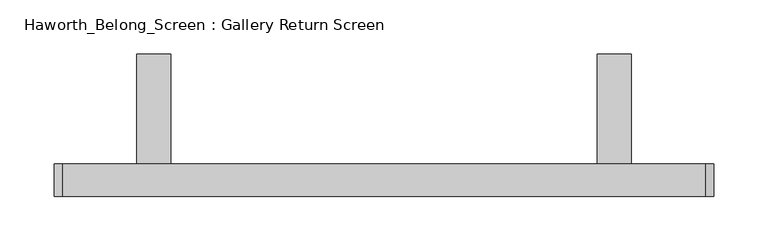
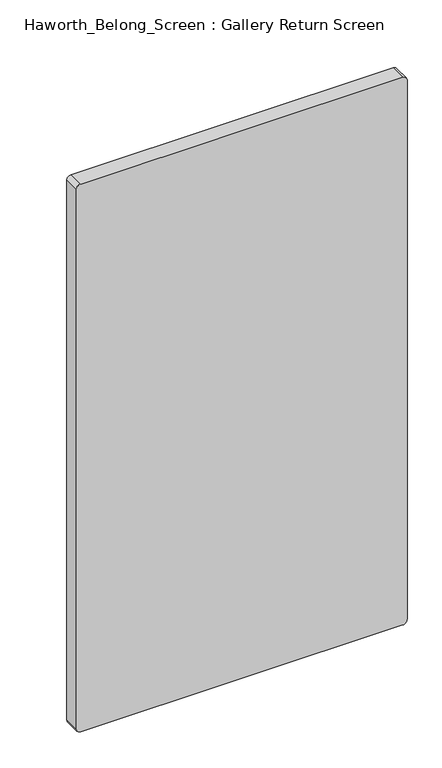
"""IFC4 building model written with IfcOpenShell, lengths in millimetres: furniture geometry, Haworth_Belong_Screen : Gallery Return Screen."""

import ifcopenshell
import ifcopenshell.guid

model = None  # the IFC model being written
_history = None  # IfcOwnerHistory: only IFC2X3 demands one
_inside = {}  # id of a spatial element -> (the spatial element, [elements in it])
_under = {}  # id of a project, library or spatial element -> (it, [spatial elements below it])
_declared = {}  # id of a project -> (the project, [libraries it declares])
_typed = {}  # id of a type object -> (the type object, [elements of that type])
_made_of = {}  # id of a material, layer set ... -> (it, [elements and type objects made of it])


def new_model(schema):
    """Start an empty IFC model of exactly this schema.

    Asked for "IFC4X3", IfcOpenShell would pick the latest addendum, in which some entities
    have other attributes; the version numbers below select the first issue.
    IFC2X3 requires an IfcOwnerHistory on every rooted entity: one is made here for all.
    """
    global model, _history
    if schema == "IFC4X3":
        model = ifcopenshell.file(schema_version=(4, 3, 0, 0))
    else:
        model = ifcopenshell.file(schema=schema)
    _inside.clear()
    _under.clear()
    _declared.clear()
    _typed.clear()
    _made_of.clear()
    _history = None
    if model.schema == "IFC2X3":
        org = make("IfcOrganization", Name="unknown")
        user = make(
            "IfcPersonAndOrganization",
            ThePerson=make("IfcPerson", FamilyName="unknown"),
            TheOrganization=org,
        )
        app = make(
            "IfcApplication",
            ApplicationDeveloper=org,
            Version="unknown",
            ApplicationFullName="unknown",
            ApplicationIdentifier="unknown",
        )
        _history = make(
            "IfcOwnerHistory",
            OwningUser=user,
            OwningApplication=app,
            ChangeAction="ADDED",
            CreationDate=0,
        )
    return model


def make(cls, **values):
    """One entity of the class cls with the attributes given. An attribute that is None is left unset."""
    return model.create_entity(
        cls, **{name: value for name, value in values.items() if value is not None}
    )


def rooted(cls, **values):
    """An entity with a GlobalId (a new one), such as an element, a storey or a relation."""
    return make(cls, GlobalId=ifcopenshell.guid.new(), OwnerHistory=_history, **values)


def si_unit(unit_type, name, prefix=None):
    """IfcSIUnit, for example si_unit("LENGTHUNIT", "METRE", prefix="MILLI")."""
    return make("IfcSIUnit", UnitType=unit_type, Prefix=prefix, Name=name)


def assignment(units):
    """IfcUnitAssignment: the units of a project."""
    return None if units is None else make("IfcUnitAssignment", Units=units)


def point(xyz):
    """IfcCartesianPoint."""
    return None if xyz is None else make("IfcCartesianPoint", Coordinates=xyz)


def direction(xyz):
    """IfcDirection."""
    return None if xyz is None else make("IfcDirection", DirectionRatios=xyz)


def frame(location, z_axis=None, x_axis=None):
    """IfcAxis2Placement3D, a coordinate frame: its origin and axes. An axis left out is left unset."""
    return make(
        "IfcAxis2Placement3D",
        Location=point(location),
        Axis=direction(z_axis),
        RefDirection=direction(x_axis),
    )


def frame_2d(location, x_axis=None):
    """IfcAxis2Placement2D, a coordinate frame in the plane: its origin and x axis."""
    return make(
        "IfcAxis2Placement2D", Location=point(location), RefDirection=direction(x_axis)
    )


def origin():
    """The frame at (0, 0, 0) with its axes left unset."""
    return frame((0.0, 0.0, 0.0))


def place(relative_to, where):
    """IfcLocalPlacement: puts the frame where relative to a parent placement (None: the world)."""
    return make(
        "IfcLocalPlacement", PlacementRelTo=relative_to, RelativePlacement=where
    )


def context(
    kind, dimensions, precision=None, world=None, true_north=None, identifier=None
):
    """IfcGeometricRepresentationContext, for example the 3D "Model" context."""
    return make(
        "IfcGeometricRepresentationContext",
        ContextIdentifier=identifier,
        ContextType=kind,
        CoordinateSpaceDimension=dimensions,
        Precision=precision,
        WorldCoordinateSystem=world,
        TrueNorth=true_north,
    )


def project(units=None, contexts=None):
    """IfcProject with its units and contexts."""
    return rooted(
        "IfcProject",
        Name="project",
        RepresentationContexts=contexts,
        UnitsInContext=assignment(units),
    )


def spatial(cls, under=None, at=None, **own):
    """A site, building, storey or space (cls), placed at a placement, below another one or the project."""
    s = rooted(cls, ObjectPlacement=at, **own)
    if under is not None:
        _under.setdefault(under.id(), (under, []))[1].append(s)
    return s


def polyline(points):
    """IfcPolyline through the points."""
    return make("IfcPolyline", Points=[point(p) for p in points])


def circle_curve(where, radius):
    """IfcCircle in the frame where."""
    return make("IfcCircle", Position=where, Radius=radius)


def trimmed(basis, trim1, trim2, sense, master):
    """IfcTrimmedCurve: the piece of a basis curve between two trims."""
    return make(
        "IfcTrimmedCurve",
        BasisCurve=basis,
        Trim1=trim1,
        Trim2=trim2,
        SenseAgreement=sense,
        MasterRepresentation=master,
    )


def segment(curve, same_sense, transition):
    """IfcCompositeCurveSegment."""
    return make(
        "IfcCompositeCurveSegment",
        Transition=transition,
        SameSense=same_sense,
        ParentCurve=curve,
    )


def composite_curve(segments, self_intersect=None):
    """IfcCompositeCurve: segments joined end to end."""
    return make("IfcCompositeCurve", Segments=segments, SelfIntersect=self_intersect)


def outline(outer, holes=None, kind="AREA"):
    """IfcArbitraryClosedProfileDef: a profile drawn as a closed curve; with holes, ...WithVoids."""
    if holes is None:
        return make("IfcArbitraryClosedProfileDef", ProfileType=kind, OuterCurve=outer)
    return make(
        "IfcArbitraryProfileDefWithVoids",
        ProfileType=kind,
        OuterCurve=outer,
        InnerCurves=holes,
    )


def extrude(swept, where, along, depth):
    """IfcExtrudedAreaSolid: the profile swept, set in the frame where, extruded along a direction by depth."""
    return make(
        "IfcExtrudedAreaSolid",
        SweptArea=swept,
        Position=where,
        ExtrudedDirection=direction(along),
        Depth=depth,
    )


def shape(context_of_items, identifier, shape_type, items):
    """IfcShapeRepresentation: the items that make up one representation, for example the "Body"."""
    return make(
        "IfcShapeRepresentation",
        ContextOfItems=context_of_items,
        RepresentationIdentifier=identifier,
        RepresentationType=shape_type,
        Items=items,
    )


def source(mapping_origin, context_of_items, identifier, shape_type, items):
    """IfcRepresentationMap: a shape defined once, which mapped items show again and again."""
    return make(
        "IfcRepresentationMap",
        MappingOrigin=mapping_origin,
        MappedRepresentation=shape(context_of_items, identifier, shape_type, items),
    )


def transform(
    local_origin,
    x_axis=None,
    y_axis=None,
    z_axis=None,
    scale=None,
    scale2=None,
    scale3=None,
    uniform=True,
):
    """IfcCartesianTransformationOperator3D, or its non-uniform kind. x_axis, y_axis, z_axis: its Axis1, 2, 3."""
    if uniform:
        return make(
            "IfcCartesianTransformationOperator3D",
            Axis1=direction(x_axis),
            Axis2=direction(y_axis),
            LocalOrigin=point(local_origin),
            Scale=scale,
            Axis3=direction(z_axis),
        )
    return make(
        "IfcCartesianTransformationOperator3DnonUniform",
        Axis1=direction(x_axis),
        Axis2=direction(y_axis),
        LocalOrigin=point(local_origin),
        Scale=scale,
        Axis3=direction(z_axis),
        Scale2=scale2,
        Scale3=scale3,
    )


def mapped(mapping_source, mapping_target):
    """IfcMappedItem: shows the shape of a source again, moved by a transform."""
    return make(
        "IfcMappedItem", MappingSource=mapping_source, MappingTarget=mapping_target
    )


def made_of(thing, what):
    """Note that an element or type object is made of a material, layer set ...; save() writes the relation."""
    if what is not None:
        _made_of.setdefault(what.id(), (what, []))[1].append(thing)
    return thing


def element(
    cls,
    number,
    at=None,
    inside=None,
    cuts=None,
    type_object=None,
    material=None,
    context=None,
    identifier="Body",
    shape_type=None,
    held_by="IfcProductDefinitionShape",
    body=None,
    shapes=None,
    **own,
):
    """One element of the class cls, such as IfcWall. Its Tag is "e" and its number.

    at: its placement. inside: the storey or other place that contains it. cuts: it is an
    opening in that element (IfcRelVoidsElement). A single representation is given by context,
    identifier, shape_type and body (its items); several are given by shapes. held_by: the class
    of the entity that holds the representations. save() writes the other relations.
    """
    e = rooted(cls, Tag="e%d" % number, ObjectPlacement=at, **own)
    if body is not None:
        shapes = [shape(context, identifier, shape_type, body)]
    if shapes is not None:
        e.Representation = make(held_by, Representations=shapes)
    if inside is not None:
        _inside.setdefault(inside.id(), (inside, []))[1].append(e)
    if cuts is not None:
        rooted(
            "IfcRelVoidsElement", RelatingBuildingElement=cuts, RelatedOpeningElement=e
        )
    if type_object is not None:
        _typed.setdefault(type_object.id(), (type_object, []))[1].append(e)
    return made_of(e, material)


def aggregate(whole, parts):
    """IfcRelAggregates: a whole, such as a stair, and the parts it consists of."""
    return rooted("IfcRelAggregates", RelatingObject=whole, RelatedObjects=parts)


def save(model, path):
    """Write the relations noted so far, then the file.

    IfcRelAggregates (storeys below a building ...), IfcRelContainedInSpatialStructure (elements
    in a storey), IfcRelDefinesByType, IfcRelAssociatesMaterial and IfcRelDeclares: one each for
    every whole, place, type object, material and project.
    """
    for whole, parts in _under.values():
        aggregate(whole, parts)
    for where, things in _inside.values():
        rooted(
            "IfcRelContainedInSpatialStructure",
            RelatedElements=things,
            RelatingStructure=where,
        )
    for kind, things in _typed.values():
        rooted("IfcRelDefinesByType", RelatedObjects=things, RelatingType=kind)
    for what, things in _made_of.values():
        rooted("IfcRelAssociatesMaterial", RelatedObjects=things, RelatingMaterial=what)
    for by, libraries in _declared.values():
        rooted("IfcRelDeclares", RelatingContext=by, RelatedDefinitions=libraries)
    model.write(path)


def haworth_belong_screen_gallery_return_screen_956dbb98(model_context):
    return source(origin(), model_context, "Body", "SweptSolid", [
        extrude(outline(polyline([(19.05, 731.8375), (120.65, 731.8375), (120.65, 725.4875), (25.4, 725.4875), (25.4, 630.2375), (19.05, 630.2375), (19.05, 731.8375)])), frame((-261.2645436, 0.0, 0.0), z_axis=(1.0, 0.0, 0.0), x_axis=(0.0, 1.0, 0.0)), (0.0, 0.0, 1.0), 31.75),
        extrude(outline(polyline([(19.05, 731.8375), (120.65, 731.8375), (120.65, 725.4875), (25.4, 725.4875), (25.4, 630.2375), (19.05, 630.2375), (19.05, 731.8375)])), frame((164.1854564, 0.0, 0.0), z_axis=(1.0, 0.0, 0.0), x_axis=(0.0, 1.0, 0.0)), (0.0, 0.0, 1.0), 31.75),
        extrude(outline(composite_curve([segment(polyline([(1087.4375, 264.1979564), (1087.4375, -329.5270436)]), True, "CONTINUOUS"), segment(trimmed(circle_curve(frame_2d((1079.5, -329.5270436)), 7.9375), [point((1087.4375, -329.5270436))], [point((1079.5, -337.4645436))], False, "CARTESIAN"), True, "CONTINUOUS"), segment(polyline([(1079.5, -337.4645436), (28.575, -337.4645436)]), True, "CONTINUOUS"), segment(trimmed(circle_curve(frame_2d((28.575, -329.5270436)), 7.9375), [point((28.575, -337.4645436))], [point((20.6375, -329.5270436))], False, "CARTESIAN"), True, "CONTINUOUS"), segment(polyline([(20.6375, -329.5270436), (20.6375, 264.1979564)]), True, "CONTINUOUS"), segment(trimmed(circle_curve(frame_2d((28.575, 264.1979564)), 7.9375), [point((20.6375, 264.1979564))], [point((28.575, 272.1354564))], False, "CARTESIAN"), True, "CONTINUOUS"), segment(polyline([(28.575, 272.1354564), (1079.5, 272.1354564)]), True, "CONTINUOUS"), segment(trimmed(circle_curve(frame_2d((1079.5, 264.1979564)), 7.9375), [point((1079.5, 272.1354564))], [point((1087.4375, 264.1979564))], False, "CARTESIAN"), True, "CONTINUOUS")], self_intersect=False)), frame((0.0, -11.1125, 0.0), z_axis=(0.0, 1.0, 0.0), x_axis=(0.0, 0.0, 1.0)), (0.0, 0.0, 1.0), 30.1625),
    ])


if __name__ == "__main__":
    model = new_model("IFC4")
    model_context = context("Model", 3, world=origin())
    ifc_project = project(units=[si_unit("LENGTHUNIT", "METRE", prefix="MILLI")], contexts=[model_context])
    site = spatial("IfcSite", under=ifc_project)
    building = spatial("IfcBuilding", under=site)
    placement = place(None, origin())
    haworth_belong_screen_gallery_return_screen_shape = haworth_belong_screen_gallery_return_screen_956dbb98(model_context)
    element("IfcFurniture", 1, ObjectType="Haworth_Belong_Screen : Gallery Return Screen", at=placement, inside=building, context=model_context, shape_type="MappedRepresentation", body=[
        mapped(haworth_belong_screen_gallery_return_screen_shape, transform((0.0, 0.0, 0.0), x_axis=(1.0, 0.0, 0.0), y_axis=(0.0, 1.0, 0.0), z_axis=(0.0, 0.0, 1.0))),
    ])
    save(model, "model.ifc")
